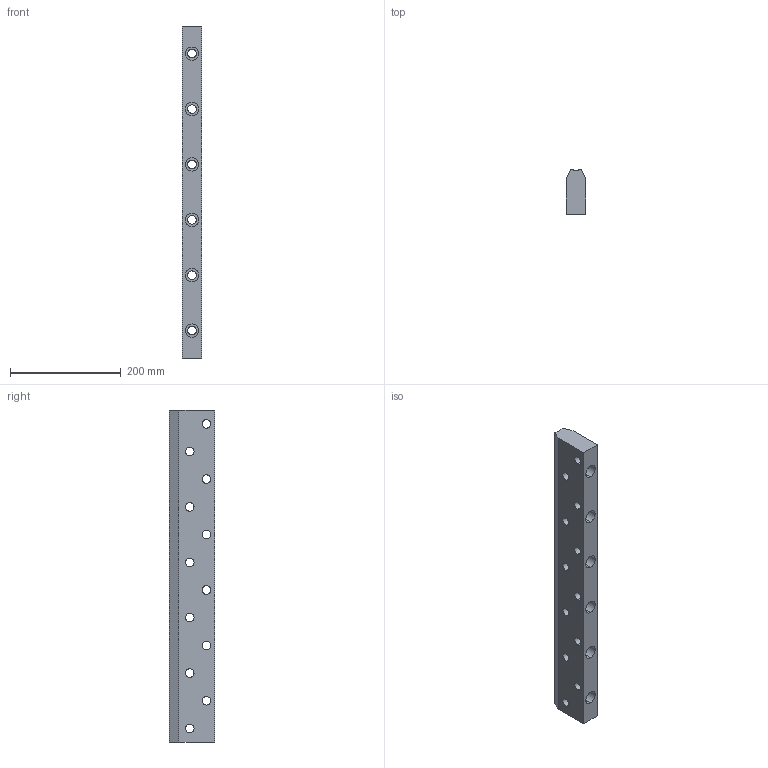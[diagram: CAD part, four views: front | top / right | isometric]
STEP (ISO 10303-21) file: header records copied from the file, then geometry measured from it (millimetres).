
FILE_DESCRIPTION (( 'STEP AP203' ), '1' );
FILE_NAME ('FKWU54-150.SLDPRT.step', '2020-08-02T20:09:00', ( '' ), ( '' ), 'SwSTEP 2.0', 'SolidWorks 2019', '' );
FILE_SCHEMA (( 'CONFIG_CONTROL_DESIGN' ));
Length unit declared in the file: millimetre
Products named in the file (2): FKWU54-150.SLDPRT
Bounding box: 35 x 81.78 x 599.5 mm (x, y, z)
Volume: 1354474.8 mm3; surface area: 184952.9 mm2
Topology: 1 solids, 1 shells, 99 faces, 243 edges, 158 vertices
Faces by surface type: cylinder 72, plane 27
Entity records: 3200 total; most frequent: DIRECTION 565, CARTESIAN_POINT 538, ORIENTED_EDGE 486, EDGE_CURVE 243, AXIS2_PLACEMENT_3D 233, VERTEX_POINT 158, EDGE_LOOP 147, CIRCLE 132
